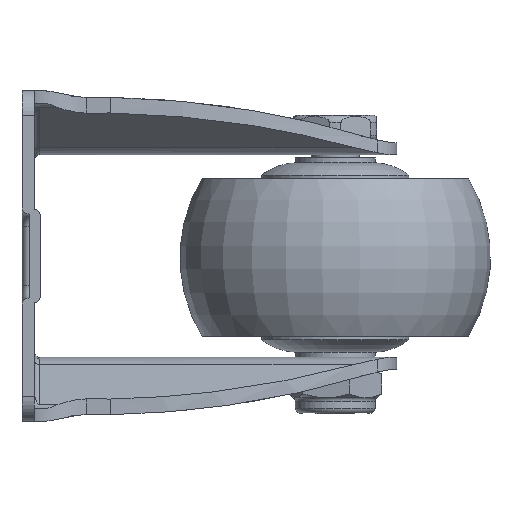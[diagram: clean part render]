
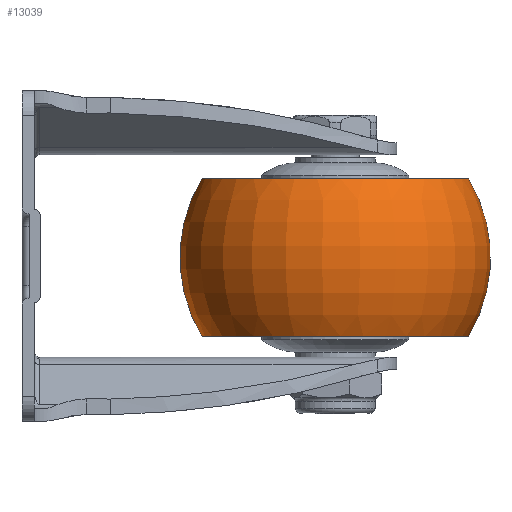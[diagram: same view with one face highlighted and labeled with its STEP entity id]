
A CAD part, left-side view. The second image highlights one B-rep face of the part: STEP entity #13039.
In plain terms, the highlighted toroidal (fillet/blend) face has major radius 0.806 mm and minor radius 30.694 mm.
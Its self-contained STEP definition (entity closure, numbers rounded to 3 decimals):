
#867 = CARTESIAN_POINT ( 'NONE',  ( 0., -16., -27. ) ) ;
#868 = CARTESIAN_POINT ( 'NONE',  ( 0., 0., -0.806 ) ) ;
#869 = CIRCLE ( 'NONE', #883, 30.694 ) ;
#881 = DIRECTION ( 'NONE',  ( 0., 0., 1. ) ) ;
#882 = DIRECTION ( 'NONE',  ( -1., 0., 0. ) ) ;
#883 = AXIS2_PLACEMENT_3D ( 'NONE', #868, #882, #881 ) ;
#1172 = DIRECTION ( 'NONE',  ( 0., -1., 0. ) ) ;
#1173 = AXIS2_PLACEMENT_3D ( 'NONE', #1177, #1172, #1174 ) ;
#1174 = DIRECTION ( 'NONE',  ( 0., 0., -1. ) ) ;
#1177 = CARTESIAN_POINT ( 'NONE',  ( 0., 0., 0. ) ) ;
#1178 = FACE_OUTER_BOUND ( 'NONE', #13040, .T. ) ;
#1181 = TOROIDAL_SURFACE ( 'NONE', #1173, 0.806, 30.694 ) ;
#1188 = CARTESIAN_POINT ( 'NONE',  ( 0., 16., 27. ) ) ;
#1205 = CARTESIAN_POINT ( 'NONE',  ( 0., 16., -27. ) ) ;
#1366 = CARTESIAN_POINT ( 'NONE',  ( 0., -16., 27. ) ) ;
#1367 = DIRECTION ( 'NONE',  ( 0., 0., -1. ) ) ;
#1368 = DIRECTION ( 'NONE',  ( 1., 0., 0. ) ) ;
#1369 = CARTESIAN_POINT ( 'NONE',  ( 0., 0., 0.806 ) ) ;
#1370 = AXIS2_PLACEMENT_3D ( 'NONE', #1369, #1368, #1367 ) ;
#1371 = CIRCLE ( 'NONE', #1370, 30.694 ) ;
#1427 = DIRECTION ( 'NONE',  ( 0., 0., -1. ) ) ;
#1428 = DIRECTION ( 'NONE',  ( 0., -1., 0. ) ) ;
#1429 = CARTESIAN_POINT ( 'NONE',  ( 0., -16., 0. ) ) ;
#1430 = AXIS2_PLACEMENT_3D ( 'NONE', #1429, #1428, #1427 ) ;
#1431 = CIRCLE ( 'NONE', #1430, 27. ) ;
#10740 = ORIENTED_EDGE ( 'NONE', *, *, #13004, .T. ) ;
#11414 = ORIENTED_EDGE ( 'NONE', *, *, #13500, .T. ) ;
#12985 = EDGE_CURVE ( 'NONE', #13056, #12986, #1371, .T. ) ;
#12986 = VERTEX_POINT ( 'NONE', #1366 ) ;
#13004 = EDGE_CURVE ( 'NONE', #13055, #13009, #869, .T. ) ;
#13009 = VERTEX_POINT ( 'NONE', #867 ) ;
#13037 = ORIENTED_EDGE ( 'NONE', *, *, #13121, .F. ) ;
#13039 = ADVANCED_FACE ( 'NONE', ( #1178 ), #1181, .T. ) ;
#13040 = EDGE_LOOP ( 'NONE', ( #13041, #11414, #10740, #13037 ) ) ;
#13041 = ORIENTED_EDGE ( 'NONE', *, *, #12985, .F. ) ;
#13055 = VERTEX_POINT ( 'NONE', #1205 ) ;
#13056 = VERTEX_POINT ( 'NONE', #1188 ) ;
#13121 = EDGE_CURVE ( 'NONE', #12986, #13009, #1431, .T. ) ;
#13500 = EDGE_CURVE ( 'NONE', #13056, #13055, #15963, .T. ) ;
#15963 = CIRCLE ( 'NONE', #15972, 27. ) ;
#15969 = CARTESIAN_POINT ( 'NONE',  ( 0., 16., 0. ) ) ;
#15970 = DIRECTION ( 'NONE',  ( 0., 0., -1. ) ) ;
#15971 = DIRECTION ( 'NONE',  ( 0., -1., 0. ) ) ;
#15972 = AXIS2_PLACEMENT_3D ( 'NONE', #15969, #15971, #15970 ) ;
